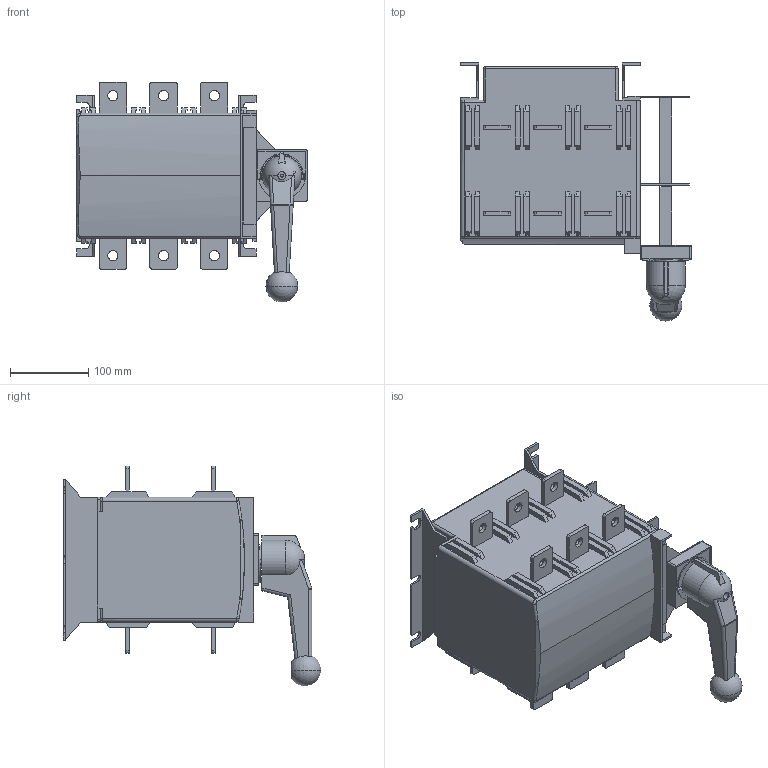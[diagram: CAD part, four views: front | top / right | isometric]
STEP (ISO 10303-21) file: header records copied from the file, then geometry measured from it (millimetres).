
FILE_DESCRIPTION((''),'2;1');
FILE_NAME('1-NH40-400-3CSW_3P_202405_ASM','2024-05-24T',('zhuanghy'),(''),'CREO PARAMETRIC BY PTC INC, 2018070','CREO PARAMETRIC BY PTC INC, 2018070','');
FILE_SCHEMA(('AUTOMOTIVE_DESIGN { 1 0 10303 214 1 1 1 1 }'));
Length unit declared in the file: millimetre
Products named in the file (30): PRT0003_1_AF1_1_1_2; DZNH40-250-630_1_1_2_3_1_AF0__4; ZBNH40-250-630_3_1_2_3_1_AF0__4; ZZNH40-250-630_2_1_2_3_1_AF0__4; LM4_3_1_2_3_1_AF0_1_1_2_3; LM4_3_1_2_3_1_AF1_1_1_2_3; LM4_3_1_2_3_1_AF2_1_1_2_3; KZNH40-250-630_1_1_2_3_1_AF0__4; LM4_3_1_2_3_1_AF3_1_1_2_3; ZNH40-250-630_3_1_2_3_1_AF0_1_3; 121_1_1_2_3_1_AF0_1_1_2_3; NH40-250-630_ASM_5_ASM_1_2__A_3_ASM; 1213_2_1_2_3_1_AF0_1_1_2_3; LSM6_11_1_2_3_1_AF0_1_1_2_3; NH40-250_630_2021_7__ASM_1__A_3_ASM; ASM0005_ASM_1_AF0_ASM_1_1_2_3_ASM; NH40-315_630-S_202107_1_AF0_1_3; ASM0004_ASM_1_AF1_ASM_1_1_2_3_ASM; PRT0003_1_AF0_1_1_1; PRT0003_1_AF0_1_2_1; PRT0003_1_AF0_1_ASM_1_ASM; NH40-250-630_ASM_5_ASM_1_2_3__5_ASM; NH40-250_630_2021_7__ASM_1_2__5_ASM; ASM0005_ASM_1_ASM_1_ASM_1_ASM; ASM0004_ASM_1_AF0_ASM_1_ASM_1_ASM; NH40-315_400-4CSW_3P_2023-35523_ASM; NH40-400-4-1CSW_3P_202312_ASM_A_ASM; NH40-315_400-4CSW_3P_2023-15676_ASM; NH40-315_630_202107_; 1-NH40-400-3CSW_3P_202405_ASM
Assembly tree (29 placements, depth 8):
  1-NH40-400-3CSW_3P_202405_ASM
    NH40-315_400-4CSW_3P_2023-15676_ASM
      ASM0004_ASM_1_AF1_ASM_1_1_2_3_ASM
        PRT0003_1_AF1_1_1_2
        ASM0005_ASM_1_AF0_ASM_1_1_2_3_ASM
          NH40-250_630_2021_7__ASM_1__A_3_ASM
            NH40-250-630_ASM_5_ASM_1_2__A_3_ASM
              DZNH40-250-630_1_1_2_3_1_AF0__4
              ZBNH40-250-630_3_1_2_3_1_AF0__4
              ZZNH40-250-630_2_1_2_3_1_AF0__4
              LM4_3_1_2_3_1_AF0_1_1_2_3
              LM4_3_1_2_3_1_AF1_1_1_2_3
              LM4_3_1_2_3_1_AF2_1_1_2_3
              KZNH40-250-630_1_1_2_3_1_AF0__4
              LM4_3_1_2_3_1_AF3_1_1_2_3
              ZNH40-250-630_3_1_2_3_1_AF0_1_3
              121_1_1_2_3_1_AF0_1_1_2_3
            1213_2_1_2_3_1_AF0_1_1_2_3
            LSM6_11_1_2_3_1_AF0_1_1_2_3
        NH40-315_630-S_202107_1_AF0_1_3
      NH40-400-4-1CSW_3P_202312_ASM_A_ASM
        NH40-315_400-4CSW_3P_2023-35523_ASM
          ASM0004_ASM_1_AF0_ASM_1_ASM_1_ASM
            PRT0003_1_AF0_1_ASM_1_ASM
              PRT0003_1_AF0_1_1_1
              PRT0003_1_AF0_1_2_1
            ASM0005_ASM_1_ASM_1_ASM_1_ASM
              NH40-250_630_2021_7__ASM_1_2__5_ASM
                NH40-250-630_ASM_5_ASM_1_2_3__5_ASM
    NH40-315_630_202107_
Bounding box: 295.75 x 330.3 x 281.93 mm (x, y, z)
Volume: 8484478 mm3; surface area: 440535.7 mm2
Topology: 4 solids, 4 shells, 700 faces, 1873 edges, 1231 vertices
Faces by surface type: plane 542, cylinder 113, extrusion 25, sphere 10, bspline 6, torus 4
Entity records: 23735 total; most frequent: CARTESIAN_POINT 4769, ORIENTED_EDGE 3726, DIRECTION 3534, EDGE_CURVE 1863, VECTOR 1554, LINE 1529, VERTEX_POINT 1231, AXIS2_PLACEMENT_3D 990
